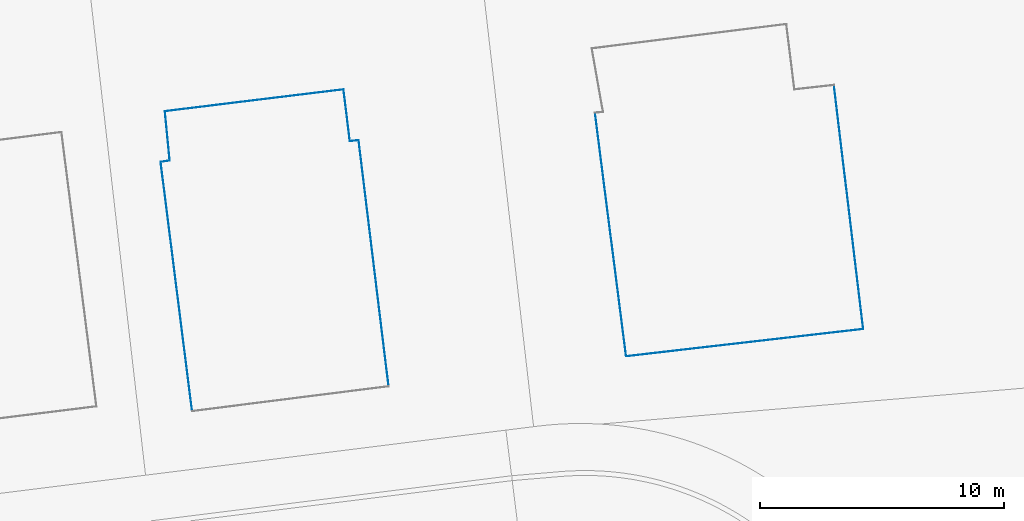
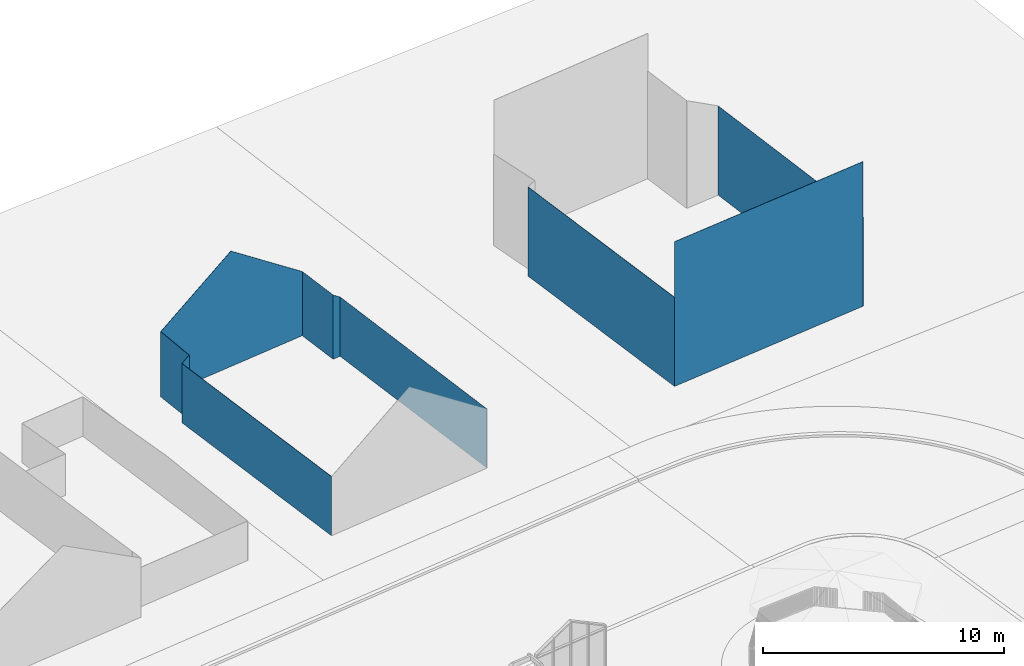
# One storey, part 35 of 75: 10 walls.
"""IFC2X3 building model written with IfcOpenShell, lengths in metres."""

from ifc_helpers import new_model, entity, si_unit, converted_unit, derived_unit, direction, frame, frame_2d, origin, place, context, subcontext, project, spatial, polyline, rectangle, outline, extrude, clip, bounded_halfspace, material, layer, layer_set, layer_usage, type_object, element, save


model = new_model("IFC2X3")

# Units and contexts
model_context = context("Model", 3, precision=1e-05, world=origin(), true_north=direction((6.123031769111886e-17, 1.0)))
body_context = subcontext(model_context, "Body", "Model", "MODEL_VIEW")
ifc_project = project(units=[si_unit("LENGTHUNIT", "METRE"), si_unit("AREAUNIT", "SQUARE_METRE"), si_unit("VOLUMEUNIT", "CUBIC_METRE"), converted_unit("PLANEANGLEUNIT", "DEGREE", entity("IfcRatioMeasure", 0.017453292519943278), si_unit("PLANEANGLEUNIT", "RADIAN"), dimensions=[0, 0, 0, 0, 0, 0, 0]), si_unit("MASSUNIT", "GRAM", prefix="KILO"), derived_unit("MASSDENSITYUNIT", [(si_unit("MASSUNIT", "GRAM", prefix="KILO"), 1), (si_unit("LENGTHUNIT", "METRE"), -3)]), derived_unit("IONCONCENTRATIONUNIT", [(si_unit("MASSUNIT", "GRAM", prefix="KILO"), 1), (si_unit("LENGTHUNIT", "METRE"), -3)]), derived_unit("MOMENTOFINERTIAUNIT", [(si_unit("LENGTHUNIT", "METRE"), 4)]), si_unit("TIMEUNIT", "SECOND"), si_unit("FREQUENCYUNIT", "HERTZ"), si_unit("THERMODYNAMICTEMPERATUREUNIT", "DEGREE_CELSIUS"), derived_unit("THERMALTRANSMITTANCEUNIT", [(si_unit("MASSUNIT", "GRAM", prefix="KILO"), 1), (si_unit("THERMODYNAMICTEMPERATUREUNIT", "KELVIN"), -1), (si_unit("TIMEUNIT", "SECOND"), -3)]), derived_unit("THERMALCONDUCTANCEUNIT", [(si_unit("MASSUNIT", "GRAM", prefix="KILO"), 1), (si_unit("THERMODYNAMICTEMPERATUREUNIT", "KELVIN"), -1), (si_unit("TIMEUNIT", "SECOND"), -3), (si_unit("LENGTHUNIT", "METRE"), 1)]), derived_unit("VOLUMETRICFLOWRATEUNIT", [(si_unit("LENGTHUNIT", "METRE"), 3), (si_unit("TIMEUNIT", "SECOND"), -1)]), derived_unit("MASSFLOWRATEUNIT", [(si_unit("MASSUNIT", "GRAM", prefix="KILO"), 1), (si_unit("TIMEUNIT", "SECOND"), -1)]), derived_unit("ROTATIONALFREQUENCYUNIT", [(si_unit("TIMEUNIT", "SECOND"), -1)]), si_unit("ELECTRICCURRENTUNIT", "AMPERE"), si_unit("ELECTRICVOLTAGEUNIT", "VOLT"), si_unit("POWERUNIT", "WATT"), si_unit("FORCEUNIT", "NEWTON", prefix="KILO"), si_unit("ILLUMINANCEUNIT", "LUX"), si_unit("LUMINOUSFLUXUNIT", "LUMEN"), si_unit("LUMINOUSINTENSITYUNIT", "CANDELA"), derived_unit("USERDEFINED", [(si_unit("MASSUNIT", "GRAM", prefix="KILO"), -1), (si_unit("LENGTHUNIT", "METRE"), -2), (si_unit("TIMEUNIT", "SECOND"), 3), (si_unit("LUMINOUSFLUXUNIT", "LUMEN"), 1)]), derived_unit("USERDEFINED", [(si_unit("MASSUNIT", "GRAM", prefix="KILO"), 1), (si_unit("TIMEUNIT", "SECOND"), -3), (si_unit("LENGTHUNIT", "METRE"), 3), (si_unit("ELECTRICCURRENTUNIT", "AMPERE"), -2)]), derived_unit("SOUNDPOWERUNIT", [(si_unit("MASSUNIT", "GRAM", prefix="KILO"), 1), (si_unit("TIMEUNIT", "SECOND"), -3), (si_unit("LENGTHUNIT", "METRE"), 2)]), derived_unit("SOUNDPRESSUREUNIT", [(si_unit("MASSUNIT", "GRAM", prefix="KILO"), 1), (si_unit("LENGTHUNIT", "METRE"), -1), (si_unit("TIMEUNIT", "SECOND"), -2)]), derived_unit("LINEARVELOCITYUNIT", [(si_unit("LENGTHUNIT", "METRE"), 1), (si_unit("TIMEUNIT", "SECOND"), -1)]), si_unit("PRESSUREUNIT", "PASCAL"), derived_unit("USERDEFINED", [(si_unit("MASSUNIT", "GRAM", prefix="KILO"), 1), (si_unit("LENGTHUNIT", "METRE"), -2), (si_unit("TIMEUNIT", "SECOND"), -2)]), derived_unit("LINEARFORCEUNIT", [(si_unit("MASSUNIT", "GRAM", prefix="KILO"), 1), (si_unit("TIMEUNIT", "SECOND"), -2)]), derived_unit("PLANARFORCEUNIT", [(si_unit("MASSUNIT", "GRAM", prefix="KILO"), 1), (si_unit("LENGTHUNIT", "METRE"), -1), (si_unit("TIMEUNIT", "SECOND"), -2)]), derived_unit("SPECIFICHEATCAPACITYUNIT", [(si_unit("THERMODYNAMICTEMPERATUREUNIT", "KELVIN"), -1), (si_unit("LENGTHUNIT", "METRE"), 2), (si_unit("TIMEUNIT", "SECOND"), -2)]), derived_unit("HEATINGVALUEUNIT", [(si_unit("LENGTHUNIT", "METRE"), 2), (si_unit("TIMEUNIT", "SECOND"), -2)]), derived_unit("VAPORPERMEABILITYUNIT", [(si_unit("LENGTHUNIT", "METRE"), -1), (si_unit("TIMEUNIT", "SECOND"), 1)]), derived_unit("DYNAMICVISCOSITYUNIT", [(si_unit("MASSUNIT", "GRAM", prefix="KILO"), 1), (si_unit("TIMEUNIT", "SECOND"), -1), (si_unit("LENGTHUNIT", "METRE"), -1)]), derived_unit("THERMALEXPANSIONCOEFFICIENTUNIT", [(si_unit("THERMODYNAMICTEMPERATUREUNIT", "KELVIN"), -1)]), derived_unit("MODULUSOFELASTICITYUNIT", [(si_unit("MASSUNIT", "GRAM", prefix="KILO"), 1), (si_unit("LENGTHUNIT", "METRE"), -1), (si_unit("TIMEUNIT", "SECOND"), -2)]), derived_unit("ISOTHERMALMOISTURECAPACITYUNIT", [(si_unit("LENGTHUNIT", "METRE"), 3), (si_unit("MASSUNIT", "GRAM", prefix="KILO"), -1)]), derived_unit("MOISTUREDIFFUSIVITYUNIT", [(si_unit("TIMEUNIT", "SECOND"), -1), (si_unit("LENGTHUNIT", "METRE"), 2)])], contexts=[model_context])

# Site, building, storey
site_placement = place(None, origin())
site = spatial("IfcSite", under=ifc_project, at=site_placement, Name="Default", CompositionType="ELEMENT")
building_placement = place(site_placement, origin())
building = spatial("IfcBuilding", under=site, at=building_placement, Name="Projeto", CompositionType="ELEMENT")
storey_placement = place(building_placement, origin())
storey = spatial("IfcBuildingStorey", under=building, at=storey_placement, Name="Nível 1", CompositionType="ELEMENT", Elevation=0.0)

# Walls
ifc_material = material(Name="Metal")
ifc_layer = layer(ifc_material, 0.01)
ifc_layer_set = layer_set([ifc_layer], Name="Parede básica:JA_Aluminio")
ifc_layer_usage = layer_usage(ifc_layer_set, "AXIS2", "NEGATIVE", 0.005)
wall_type = type_object("IfcWallType", Name="Parede básica:JA_Aluminio", PredefinedType="STANDARD", material=ifc_layer_set)
wall_1_placement = place(storey_placement, frame((32.81655027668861, 63.503191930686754, -2.6), z_axis=(0.0, 0.0, 1.0), x_axis=(0.11924499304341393, -0.9928648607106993, 0.0)))
element("IfcWallStandardCase", 1, at=wall_1_placement, inside=storey, type_object=wall_type, material=ifc_layer_usage, Name="Parede básica:JA_Aluminio", ObjectType="Parede básica:JA_Aluminio", context=body_context, shape_type="Clipping", body=[
    clip(extrude(outline(polyline([(10.054405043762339, -0.005000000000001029), (10.054454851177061, 0.005000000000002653), (8.942588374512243e-05, 0.005000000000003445), (0.0, -0.00499999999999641), (10.044404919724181, -0.004999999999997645), (10.054405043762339, -0.005000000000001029)])), origin(), (0.0, 0.0, 1.0), 4.525388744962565), bounded_halfspace(frame((0.0, -0.0049999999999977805, 4.525388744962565), z_axis=(0.0, 0.5000000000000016, 0.8660254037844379), x_axis=(-1.0, 0.0, 0.0)), False, frame((0.0, -0.0049999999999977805, 4.525388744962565)), polyline([(0.0, 0.0), (10.044404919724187, 0.0), (10.054405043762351, 0.0), (10.054454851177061, 0.010000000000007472), (8.942588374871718e-05, 0.010000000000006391), (0.0, 0.0)]))),
])
wall_2_placement = place(storey_placement, frame((34.00995192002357, 53.52489747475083, -2.6), z_axis=(0.0, 0.0, 1.0), x_axis=(-0.99344646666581, -0.1142983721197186, 0.0)))
element("IfcWallStandardCase", 2, at=wall_2_placement, inside=storey, type_object=wall_type, material=ifc_layer_usage, Name="Parede básica:JA_Aluminio", ObjectType="Parede básica:JA_Aluminio", context=body_context, shape_type="Clipping", body=[
    clip(clip(extrude(outline(polyline([(9.76512739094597, -0.004999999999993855), (9.765001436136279, 0.005000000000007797), (0.0, 0.005000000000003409), (4.98074147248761e-05, -0.004999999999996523), (9.755126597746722, -0.004999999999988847), (9.76512739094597, -0.004999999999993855)])), origin(), (0.0, 0.0, 1.0), 7.341307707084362), bounded_halfspace(frame((4.8774250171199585, -0.004999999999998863, 7.341307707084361), z_axis=(0.4999603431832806, 0.006297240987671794, 0.8660254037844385), x_axis=(-0.012594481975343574, 0.9999206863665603, 0.0)), False, frame((4.8774250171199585, -0.004999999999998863, 7.341307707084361)), polyline([(0.0, 0.0), (4.8777015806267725, 0.0), (4.887702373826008, 0.0), (4.887576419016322, 0.01000000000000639), (-8.787983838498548e-05, 0.009999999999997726), (0.0, 0.0)]))), bounded_halfspace(frame((4.980741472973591e-05, -0.004999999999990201, 4.525388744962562), z_axis=(-0.4999937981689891, -0.0024903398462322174, 0.8660254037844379), x_axis=(0.004980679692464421, -0.9999875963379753, 0.0)), False, frame((4.980741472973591e-05, -0.004999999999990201, 4.525388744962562)), polyline([(0.0, 0.0), (4.877375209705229, 0.0), (4.8772873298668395, 0.009999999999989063), (-4.980741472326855e-05, 0.009999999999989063), (0.0, 0.0)]))),
])
wall_3_placement = place(storey_placement, frame((24.313224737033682, 52.414235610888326, -2.6), z_axis=(0.0, 0.0, 1.0), x_axis=(-0.12680125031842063, 0.9919281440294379, 0.0)))
element("IfcWallStandardCase", 3, at=wall_3_placement, inside=storey, type_object=wall_type, material=ifc_layer_usage, Name="Parede básica:JA_Aluminio", ObjectType="Parede básica:JA_Aluminio", context=body_context, shape_type="Clipping", body=[
    clip(extrude(outline(polyline([(10.039387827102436, -0.004999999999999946), (10.03991167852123, 0.005000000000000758), (0.0001259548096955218, 0.004999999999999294), (0.0, -0.004999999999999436), (10.039387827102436, -0.004999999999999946)])), origin(), (0.0, 0.0, 1.0), 4.525388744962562), bounded_halfspace(frame((0.0, -0.004999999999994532, 4.5253887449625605), z_axis=(0.0, 0.5000000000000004, 0.8660254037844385), x_axis=(-1.0, 0.0, 0.0)), False, frame((0.0, -0.004999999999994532, 4.5253887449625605)), polyline([(0.0, 0.0), (10.039387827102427, 0.0), (10.039911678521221, 0.00999999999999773), (0.00012595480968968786, 0.009999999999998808), (0.0, 0.0)]))),
])
wall_4_placement = place(storey_placement, frame((12.752898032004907, 63.323635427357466, -2.6), z_axis=(0.0, 0.0, 1.0), x_axis=(0.12114399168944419, -0.9926349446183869, 0.0)))
element("IfcWallStandardCase", 4, at=wall_4_placement, inside=storey, type_object=wall_type, material=ifc_layer_usage, Name="Parede básica:JA_Aluminio", ObjectType="Parede básica:JA_Aluminio", context=body_context, shape_type="Clipping", body=[
    clip(extrude(rectangle(XDim=2.1250277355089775, YDim=0.01000000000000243, at=frame_2d((1.0625138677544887, 5.204170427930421e-17), x_axis=(-1.0, 0.0))), origin(), (0.0, 0.0, 1.0), 3.2596032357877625), bounded_halfspace(frame((0.0, -0.0049999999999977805, 3.2596032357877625), z_axis=(0.0, 0.5735764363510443, 0.8191520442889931), x_axis=(-1.0, 1.0003433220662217e-09, 0.0)), False, frame((0.0, -0.0049999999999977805, 3.2596032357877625)), polyline([(0.0, 0.0), (2.125027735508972, 0.0), (2.1250277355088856, 0.01000000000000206), (0.0, 0.009999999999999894), (0.0, 0.0)]))),
])
wall_5_placement = place(storey_placement, frame((13.005974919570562, 61.20868974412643, -2.6), z_axis=(0.0, 0.0, 1.0), x_axis=(0.9926349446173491, 0.12114399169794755, 0.0)))
element("IfcWallStandardCase", 5, at=wall_5_placement, inside=storey, type_object=wall_type, material=ifc_layer_usage, Name="Parede básica:JA_Aluminio", ObjectType="Parede básica:JA_Aluminio", context=body_context, shape_type="Clipping", body=[
    clip(extrude(rectangle(XDim=0.37075184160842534, YDim=0.010000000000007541, at=frame_2d((0.18537592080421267, -2.47198095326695e-17), x_axis=(-1.0, 0.0))), origin(), (0.0, 0.0, 1.0), 3.25960323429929), bounded_halfspace(frame((0.0, -0.004999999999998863, 3.2596032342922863), z_axis=(0.5735764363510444, 0.0, 0.8191520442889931), x_axis=(1.0089097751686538e-09, 1.0, 0.0)), False, frame((0.0, -0.004999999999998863, 3.2596032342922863)), polyline([(0.0, 0.0), (0.36075184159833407, 0.0), (0.37075184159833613, 0.0), (0.37075184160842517, 0.009999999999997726), (0.01000000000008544, 0.009999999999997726), (0.0, 0.009999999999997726), (0.0, 0.0)]))),
])
wall_6_placement = place(storey_placement, frame((13.369638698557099, 61.24803520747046, -2.6), z_axis=(0.0, 0.0, 1.0), x_axis=(0.12114399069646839, -0.9926349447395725, 0.0)))
element("IfcWallStandardCase", 6, at=wall_6_placement, inside=storey, type_object=wall_type, material=ifc_layer_usage, Name="Parede básica:JA_Aluminio", ObjectType="Parede básica:JA_Aluminio", context=body_context, shape_type="Clipping", body=[
    clip(extrude(outline(polyline([(10.146921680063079, -0.0050000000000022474), (10.146877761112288, 0.004999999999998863), (0.0, 0.004999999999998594), (0.0, -0.005000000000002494), (10.136921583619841, -0.005000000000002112), (10.146921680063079, -0.0050000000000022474)])), origin(), (0.0, 0.0, 1.0), 3.0070020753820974), bounded_halfspace(frame((0.0, -0.005000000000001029, 3.0070020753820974), z_axis=(0.0, 0.5735764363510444, 0.8191520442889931), x_axis=(-1.0, 0.0, 0.0)), False, frame((0.0, -0.005000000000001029, 3.0070020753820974)), polyline([(0.0, 0.0), (10.136921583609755, 0.0), (10.146921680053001, 0.0), (10.146877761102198, 0.01000000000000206), (0.0, 0.009999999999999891), (0.0, 0.0)]))),
])
wall_7_placement = place(storey_placement, frame((6.557311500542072, 50.16866869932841, -2.6), z_axis=(0.0, 0.0, 1.0), x_axis=(-0.12534995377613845, 0.9921125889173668, 0.0)))
element("IfcWallStandardCase", 7, at=wall_7_placement, inside=storey, type_object=wall_type, material=ifc_layer_usage, Name="Parede básica:JA_Aluminio", ObjectType="Parede básica:JA_Aluminio", context=body_context, shape_type="Clipping", body=[
    clip(extrude(outline(polyline([(10.273036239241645, -0.005000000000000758), (10.272950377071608, 0.005000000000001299), (0.0, 0.004999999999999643), (1.5358795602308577e-06, -0.0050000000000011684), (10.273036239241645, -0.005000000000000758)])), origin(), (0.0, 0.0, 1.0), 3.0070020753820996), bounded_halfspace(frame((1.5358795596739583e-06, -0.005000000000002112, 3.007002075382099), z_axis=(0.0, 0.5735764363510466, 0.8191520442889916), x_axis=(-1.0, 0.0, 0.0)), False, frame((1.5358795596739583e-06, -0.005000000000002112, 3.007002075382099)), polyline([(0.0, 0.0), (10.273034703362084, 0.0), (10.272948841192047, 0.009999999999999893), (-1.5358795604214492e-06, 0.010000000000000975), (0.0, 0.0)]))),
])
wall_8_placement = place(storey_placement, frame((5.2639677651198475, 60.36492034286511, -2.6), z_axis=(0.0, 0.0, 1.0), x_axis=(0.9909997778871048, 0.13386351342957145, 0.0)))
element("IfcWallStandardCase", 8, at=wall_8_placement, inside=storey, type_object=wall_type, material=ifc_layer_usage, Name="Parede básica:JA_Aluminio", ObjectType="Parede básica:JA_Aluminio", context=body_context, shape_type="Clipping", body=[
    clip(extrude(outline(polyline([(0.38581602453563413, -0.004999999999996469), (0.38618525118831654, 0.005000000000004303), (0.376178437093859, 0.005000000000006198), (8.586217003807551e-05, 0.005000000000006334), (0.0, -0.004999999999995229), (0.010000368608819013, -0.004999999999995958), (0.38581602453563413, -0.004999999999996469)])), origin(), (0.0, 0.0, 1.0), 3.270339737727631), bounded_halfspace(frame((0.0, -0.004999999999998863, 3.0), z_axis=(-0.573555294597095, 0.004924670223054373, 0.8191520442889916), x_axis=(-0.008585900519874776, -0.9999631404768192, 0.0)), False, frame((0.0, -0.004999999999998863, 3.0)), polyline([(0.0, 0.0), (0.010000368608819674, 0.0), (0.38581602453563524, 0.0), (0.3861852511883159, 0.009999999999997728), (0.37617843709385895, 0.009999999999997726), (8.586217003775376e-05, 0.01000000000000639), (0.0, 0.0)]))),
])
wall_9_placement = place(storey_placement, frame((5.641067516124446, 60.420717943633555, -2.6), z_axis=(0.0, 0.0, 1.0), x_axis=(-0.09720692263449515, 0.9952641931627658, 0.0)))
element("IfcWallStandardCase", 9, at=wall_9_placement, inside=storey, type_object=wall_type, material=ifc_layer_usage, Name="Parede básica:JA_Aluminio", ObjectType="Parede básica:JA_Aluminio", context=body_context, shape_type="Clipping", body=[
    clip(extrude(outline(polyline([(2.030690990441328, -0.005000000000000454), (2.0304501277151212, 0.004999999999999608), (0.0, 0.004999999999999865), (0.00036922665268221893, -0.0049999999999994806), (2.020688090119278, -0.004999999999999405), (2.030690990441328, -0.005000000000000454)])), origin(), (0.0, 0.0, 1.0), 3.3105952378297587), bounded_halfspace(frame((0.0003692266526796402, -0.005000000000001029, 3.270339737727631), z_axis=(-0.016241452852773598, 0.5733464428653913, 0.8191520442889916), x_axis=(-0.9995990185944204, -0.02831610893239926, 0.0)), False, frame((0.0003692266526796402, -0.005000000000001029, 3.270339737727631)), polyline([(0.0, 0.0), (2.0203188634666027, 0.0), (2.0303217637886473, 0.0), (2.030080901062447, 0.009999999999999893), (-0.0003692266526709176, 0.009999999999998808), (0.0, 0.0)]))),
])
wall_10_placement = place(storey_placement, frame((5.449013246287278, 62.43728565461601, -2.6), z_axis=(0.0, 0.0, 1.0), x_axis=(0.9926349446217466, 0.12114399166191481, 0.0)))
element("IfcWallStandardCase", 10, at=wall_10_placement, inside=storey, type_object=wall_type, material=ifc_layer_usage, Name="Parede básica:JA_Aluminio", ObjectType="Parede básica:JA_Aluminio", context=body_context, shape_type="Clipping", body=[
    clip(clip(extrude(outline(polyline([(7.362467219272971, -0.0050000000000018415), (7.362467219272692, 0.004999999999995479), (0.0002408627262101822, 0.004999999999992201), (0.0, -0.00500000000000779), (7.35246721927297, -0.00499999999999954), (7.362467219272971, -0.0050000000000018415)])), origin(), (0.0, 0.0, 1.0), 5.859129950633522), bounded_halfspace(frame((0.0, -0.004999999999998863, 3.310396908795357), z_axis=(-0.5735712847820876, -0.0024309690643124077, 0.8191520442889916), x_axis=(0.004238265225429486, -0.999991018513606, 0.0)), False, frame((0.0, -0.004999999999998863, 3.310396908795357)), polyline([(0.0, 0.0), (3.6399795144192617, 0.0), (3.6399583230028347, 0.009999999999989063), (0.00024086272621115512, 0.009999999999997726), (0.0, 0.0)]))), bounded_halfspace(frame((3.6399795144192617, -0.005000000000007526, 5.859115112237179), z_axis=(0.5735764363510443, 0.0, 0.8191520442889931), x_axis=(0.0, 1.0, 0.0)), False, frame((3.6399795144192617, -0.005000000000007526, 5.859115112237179)), polyline([(0.0, 0.0), (3.7124877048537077, 0.0), (3.7224877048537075, 0.0), (3.7224877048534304, 0.01000000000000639), (-2.119141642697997e-05, 0.009999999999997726), (0.0, 0.0)]))),
])

save(model, "model.ifc")
